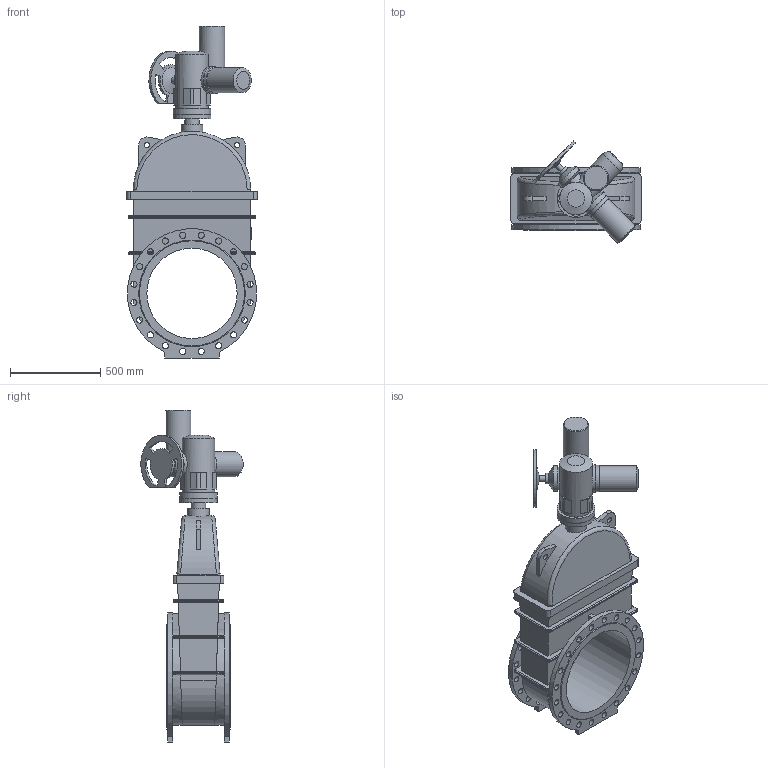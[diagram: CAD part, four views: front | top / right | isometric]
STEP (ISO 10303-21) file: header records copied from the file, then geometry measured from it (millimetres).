
FILE_DESCRIPTION(('STEP AP203'), '1');
FILE_NAME('青溻桄赅 47GVA.Z DN500 PN16+MT903.A45', '', ('UNSPECIFIED'), ('UNSPECIFIED'), 'ASCON STEP Converter 1.6', 'ASCON Math Kernel', '');
FILE_SCHEMA(('CONFIG_CONTROL_DESIGN'));
Length unit declared in the file: millimetre
Bounding box: 720 x 565.84 x 1836.5 mm (x, y, z)
Volume: 146337317.1 mm3; surface area: 4474698.4 mm2
Topology: 2 solids, 3 shells, 357 faces, 892 edges, 569 vertices
Faces by surface type: cylinder 161, plane 154, bspline 26, cone 15, torus 1
Full cylindrical faces by diameter (mm): 14 x4, 17 x4, 17.294 x4, 22 x4, 30 x2, 32 x1, 34 x40, 40 x1, 60 x1, 80 x1, 100 x1, 120 x1, 130 x2, 140 x4, 147 x1, 151 x1, 180 x1, 210 x2, 500 x1
Entity records: 17543 total; most frequent: CARTESIAN_POINT 6468, DIRECTION 1636, ORIENTED_EDGE 1594, EDGE_CURVE 797, AXIS2_PLACEMENT_3D 635, EDGE_LOOP 576, VERTEX_POINT 565, FACE_BOUND 410
